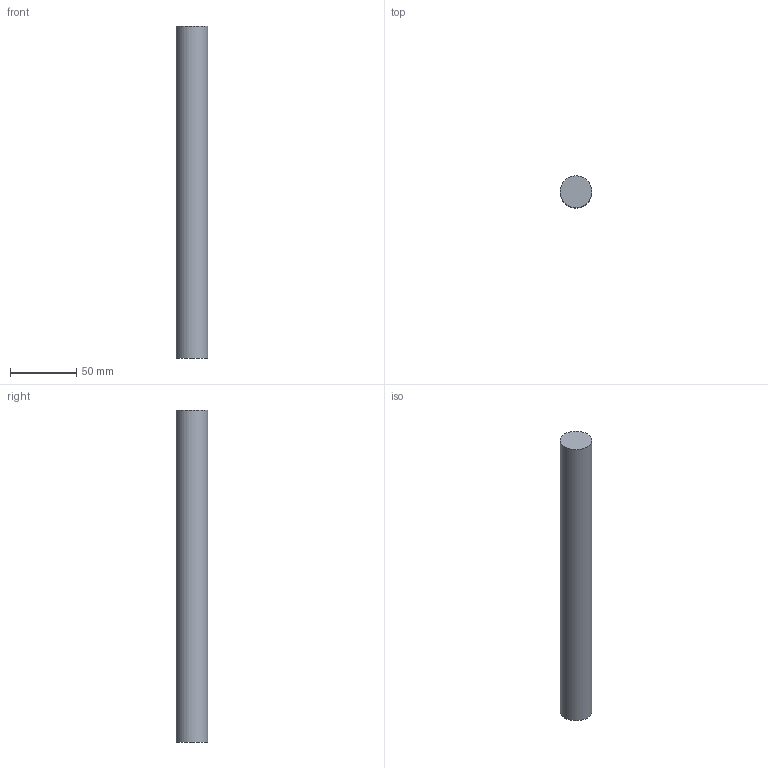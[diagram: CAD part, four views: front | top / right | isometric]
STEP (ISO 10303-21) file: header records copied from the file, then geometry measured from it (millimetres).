
FILE_DESCRIPTION(('Open CASCADE Model'),'2;1');
FILE_NAME('Open CASCADE Shape Model','2026-10-19T10:09:20',('Author'),( 'Open CASCADE'),'Open CASCADE STEP processor 8.0','Open CASCADE 8.0' ,'Unknown');
FILE_SCHEMA(('AUTOMOTIVE_DESIGN { 1 0 10303 214 1 1 1 1 }'));
Length unit declared in the file: millimetre
Products named in the file (1): CADENA_ENVELOPE 69
Bounding box: 24 x 24 x 250 mm (x, y, z)
Volume: 113097.3 mm3; surface area: 19754.3 mm2
Topology: 1 solids, 1 shells, 3 faces, 3 edges, 2 vertices
Faces by surface type: plane 2, cylinder 1
Full cylindrical faces by diameter (mm): 24 x1
Entity records: 108 total; most frequent: DIRECTION 19, CARTESIAN_POINT 15, AXIS2_PLACEMENT_3D 6, ORIENTED_EDGE 6, PCURVE 6, DEFINITIONAL_REPRESENTATION 6, LINE 5, VECTOR 5
